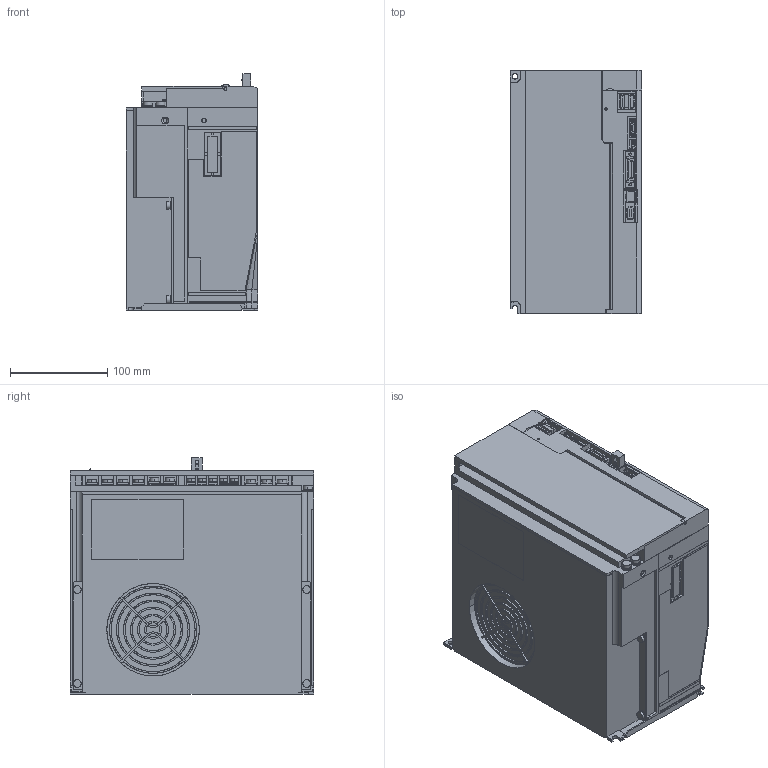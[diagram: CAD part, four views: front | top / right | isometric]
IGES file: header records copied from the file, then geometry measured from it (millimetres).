
Start section: SolidWorks IGES file using analytic representation for surfaces
Global section: file name: C:\YASKAWA\sgdv_170d1_a.IGS; native system: SolidWorks 2006 by SolidWorks Corporation; preprocessor: SolidWorks 2006 by SolidWorks Corporation; author: yamanouchi; date: 080617.171730; units: millimetre
Bounding box: 135.6 x 250 x 243 mm (x, y, z)
Surface area: 349672 mm2 (no closed solid volume)
Topology: 0 solids, 0 shells, 1932 faces, 17707 edges, 17707 vertices
Faces by surface type: bspline 1668, revolution 264
